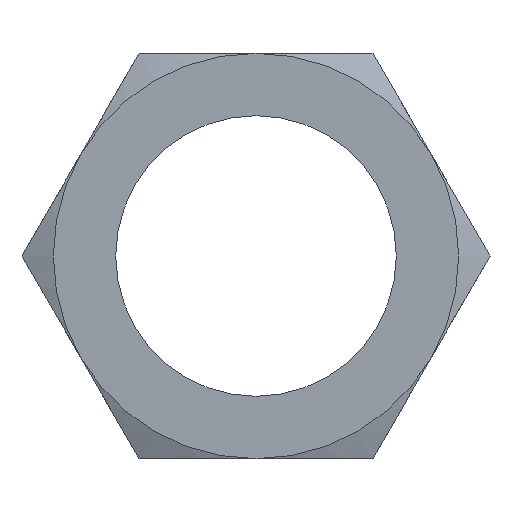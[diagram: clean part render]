
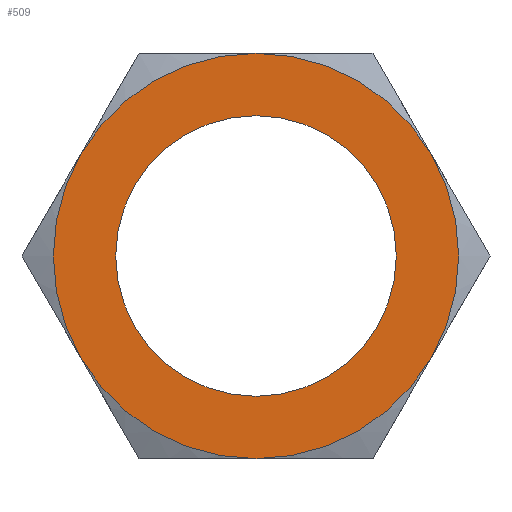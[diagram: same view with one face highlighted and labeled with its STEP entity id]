
A CAD part, left-side view. The second image highlights one B-rep face of the part: STEP entity #509.
In plain terms, the highlighted planar face has unit normal (-1, 0, 0).
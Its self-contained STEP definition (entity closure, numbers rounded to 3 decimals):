
#3 = CIRCLE ( 'NONE', #228, 6.5 ) ;
#7 = DIRECTION ( 'NONE',  ( 1., 0., 0. ) ) ;
#11 = CIRCLE ( 'NONE', #102, 6.5 ) ;
#18 = VERTEX_POINT ( 'NONE', #152 ) ;
#47 = AXIS2_PLACEMENT_3D ( 'NONE', #486, #7, #366 ) ;
#52 = CIRCLE ( 'NONE', #612, 4.5 ) ;
#63 = CARTESIAN_POINT ( 'NONE',  ( -2., -5.629, 3.25 ) ) ;
#75 = CARTESIAN_POINT ( 'NONE',  ( -2., 0., -6.5 ) ) ;
#84 = DIRECTION ( 'NONE',  ( 0., 0., -1. ) ) ;
#86 = FACE_BOUND ( 'NONE', #425, .T. ) ;
#96 = VERTEX_POINT ( 'NONE', #324 ) ;
#101 = CIRCLE ( 'NONE', #415, 6.5 ) ;
#102 = AXIS2_PLACEMENT_3D ( 'NONE', #668, #192, #604 ) ;
#105 = VERTEX_POINT ( 'NONE', #267 ) ;
#115 = CARTESIAN_POINT ( 'NONE',  ( -2., 0., 0. ) ) ;
#131 = VERTEX_POINT ( 'NONE', #377 ) ;
#135 = AXIS2_PLACEMENT_3D ( 'NONE', #464, #416, #630 ) ;
#151 = ORIENTED_EDGE ( 'NONE', *, *, #367, .F. ) ;
#152 = CARTESIAN_POINT ( 'NONE',  ( -2., 5.629, 3.25 ) ) ;
#166 = VERTEX_POINT ( 'NONE', #693 ) ;
#169 = CARTESIAN_POINT ( 'NONE',  ( -2., 0., 4.5 ) ) ;
#176 = ORIENTED_EDGE ( 'NONE', *, *, #547, .F. ) ;
#191 = PLANE ( 'NONE',  #724 ) ;
#192 = DIRECTION ( 'NONE',  ( 1., 0., 0. ) ) ;
#196 = CIRCLE ( 'NONE', #135, 4.5 ) ;
#214 = FACE_OUTER_BOUND ( 'NONE', #503, .T. ) ;
#228 = AXIS2_PLACEMENT_3D ( 'NONE', #350, #363, #346 ) ;
#267 = CARTESIAN_POINT ( 'NONE',  ( -2., -5.629, -3.25 ) ) ;
#272 = AXIS2_PLACEMENT_3D ( 'NONE', #633, #399, #473 ) ;
#283 = DIRECTION ( 'NONE',  ( -1., 0., 0. ) ) ;
#317 = DIRECTION ( 'NONE',  ( 0., 0., -1. ) ) ;
#324 = CARTESIAN_POINT ( 'NONE',  ( -2., 0., 6.5 ) ) ;
#327 = DIRECTION ( 'NONE',  ( 1., 0., 0. ) ) ;
#330 = CARTESIAN_POINT ( 'NONE',  ( -2., 0., 0. ) ) ;
#342 = EDGE_CURVE ( 'NONE', #669, #131, #196, .T. ) ;
#346 = DIRECTION ( 'NONE',  ( 0., 0., -1. ) ) ;
#350 = CARTESIAN_POINT ( 'NONE',  ( -2., 0., 0. ) ) ;
#354 = CARTESIAN_POINT ( 'NONE',  ( -2., 0., 0. ) ) ;
#363 = DIRECTION ( 'NONE',  ( 1., 0., 0. ) ) ;
#366 = DIRECTION ( 'NONE',  ( 0., 0., -1. ) ) ;
#367 = EDGE_CURVE ( 'NONE', #384, #166, #11, .T. ) ;
#376 = EDGE_CURVE ( 'NONE', #96, #18, #101, .T. ) ;
#377 = CARTESIAN_POINT ( 'NONE',  ( -2., 0., -4.5 ) ) ;
#384 = VERTEX_POINT ( 'NONE', #75 ) ;
#399 = DIRECTION ( 'NONE',  ( 1., 0., 0. ) ) ;
#409 = DIRECTION ( 'NONE',  ( 1., 0., 0. ) ) ;
#415 = AXIS2_PLACEMENT_3D ( 'NONE', #115, #283, #454 ) ;
#416 = DIRECTION ( 'NONE',  ( 1., 0., 0. ) ) ;
#425 = EDGE_LOOP ( 'NONE', ( #517, #540 ) ) ;
#454 = DIRECTION ( 'NONE',  ( 0., 0., 1. ) ) ;
#464 = CARTESIAN_POINT ( 'NONE',  ( -2., 0., 0. ) ) ;
#473 = DIRECTION ( 'NONE',  ( 0., 0., -1. ) ) ;
#486 = CARTESIAN_POINT ( 'NONE',  ( -2., 0., 0. ) ) ;
#503 = EDGE_LOOP ( 'NONE', ( #151, #176, #626, #635, #661, #715 ) ) ;
#509 = ADVANCED_FACE ( 'NONE', ( #86, #214 ), #191, .F. ) ;
#517 = ORIENTED_EDGE ( 'NONE', *, *, #720, .T. ) ;
#540 = ORIENTED_EDGE ( 'NONE', *, *, #342, .T. ) ;
#547 = EDGE_CURVE ( 'NONE', #105, #384, #665, .T. ) ;
#600 = DIRECTION ( 'NONE',  ( 0., 0., -1. ) ) ;
#604 = DIRECTION ( 'NONE',  ( 0., 0., -1. ) ) ;
#612 = AXIS2_PLACEMENT_3D ( 'NONE', #354, #708, #84 ) ;
#619 = VERTEX_POINT ( 'NONE', #63 ) ;
#626 = ORIENTED_EDGE ( 'NONE', *, *, #749, .F. ) ;
#630 = DIRECTION ( 'NONE',  ( 0., 0., -1. ) ) ;
#632 = EDGE_CURVE ( 'NONE', #96, #619, #3, .T. ) ;
#633 = CARTESIAN_POINT ( 'NONE',  ( -2., 0., 0. ) ) ;
#635 = ORIENTED_EDGE ( 'NONE', *, *, #632, .F. ) ;
#644 = EDGE_CURVE ( 'NONE', #166, #18, #684, .T. ) ;
#661 = ORIENTED_EDGE ( 'NONE', *, *, #376, .T. ) ;
#665 = CIRCLE ( 'NONE', #685, 6.5 ) ;
#668 = CARTESIAN_POINT ( 'NONE',  ( -2., 0., 0. ) ) ;
#669 = VERTEX_POINT ( 'NONE', #169 ) ;
#676 = CIRCLE ( 'NONE', #272, 6.5 ) ;
#682 = CARTESIAN_POINT ( 'NONE',  ( -2., 0., 0. ) ) ;
#684 = CIRCLE ( 'NONE', #47, 6.5 ) ;
#685 = AXIS2_PLACEMENT_3D ( 'NONE', #330, #327, #317 ) ;
#693 = CARTESIAN_POINT ( 'NONE',  ( -2., 5.629, -3.25 ) ) ;
#708 = DIRECTION ( 'NONE',  ( 1., 0., 0. ) ) ;
#715 = ORIENTED_EDGE ( 'NONE', *, *, #644, .F. ) ;
#720 = EDGE_CURVE ( 'NONE', #131, #669, #52, .T. ) ;
#724 = AXIS2_PLACEMENT_3D ( 'NONE', #682, #409, #600 ) ;
#749 = EDGE_CURVE ( 'NONE', #619, #105, #676, .T. ) ;
